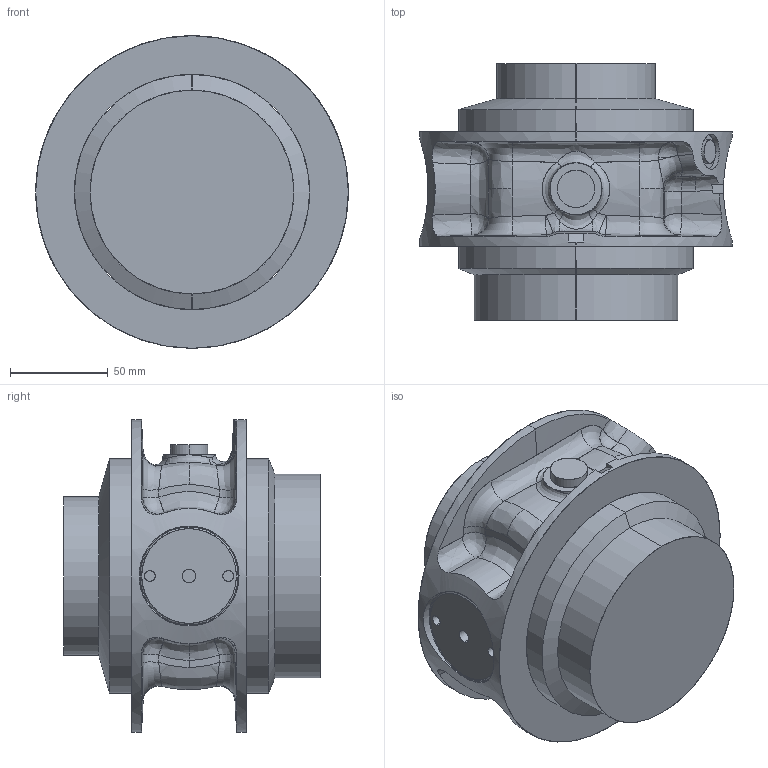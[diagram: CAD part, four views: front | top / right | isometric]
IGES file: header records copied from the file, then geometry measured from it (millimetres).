
Start section: SolidWorks IGES file using analytic representation for surfaces
Global section: file name: C:\Data\SAP_DOC\_2016-Q4_Lättmodeller RobCal\CAD Model_IRB4600_Rev04\IRB4600_40kg-255_IRC5_rev04\IRB4600_40kg-255_IRC5_rev04_IRC5_IGES_j\IRB4600_40kg-255_LINK5_CAD_rev04.IGS; native system: SolidWorks 2014; preprocessor: SolidWorks 2014; author: SEMAAXM; date: 161206.112824; units: millimetre
Bounding box: 159.5 x 131 x 159.5 mm (x, y, z)
Surface area: 102373 mm2 (no closed solid volume)
Topology: 0 solids, 0 shells, 161 faces, 2689 edges, 2689 vertices
Faces by surface type: bspline 88, revolution 73
